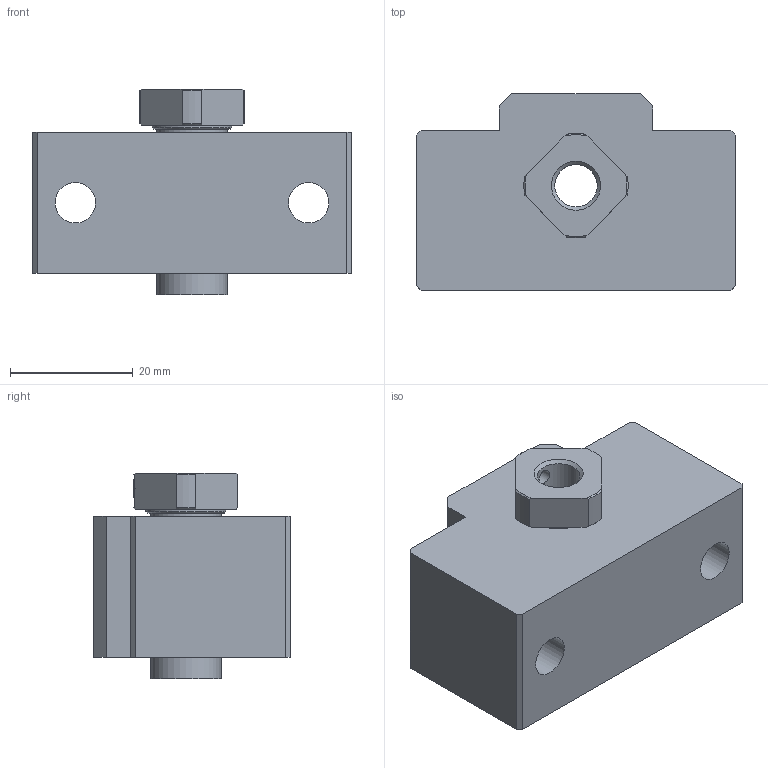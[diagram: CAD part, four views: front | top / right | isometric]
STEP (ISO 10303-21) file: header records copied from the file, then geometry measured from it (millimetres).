
FILE_DESCRIPTION(/* description */ ('STEP AP214'),/* implementation_level */ '2;1');
FILE_NAME(/* name */ 'EK8______CAD_NO_Yes',/* time_stamp */ '2026-09-17T12:54:46+02:00',/* author */ ('License CC BY-ND 4.0'),/* organization */ ('CADENAS'),/* preprocessor_version */ 'ST-DEVELOPER v20',/* originating_system */ 'PARTsolutions',/* authorisation */ ' ');
FILE_SCHEMA (('AUTOMOTIVE_DESIGN {1 0 10303 214 3 1 1}'));
Length unit declared in the file: millimetre
Products named in the file (4): EK8______CAD_NO_Yes; EK 8; EK 8collar; RN 8
Assembly tree (4 placements, depth 2):
  EK8______CAD_NO_Yes
    EK 8
    EK 8collar  x2
    RN 8
Bounding box: 52 x 32 x 33.5 mm (x, y, z)
Volume: 31169.3 mm3; surface area: 10541.9 mm2
Topology: 4 solids, 4 shells, 75 faces, 169 edges, 112 vertices
Faces by surface type: plane 42, cylinder 21, cone 12
Full cylindrical faces by diameter (mm): 2.459 x1, 3 x1, 6.6 x2, 6.917 x1, 8 x3, 11 x2, 11.5 x4, 13 x1, 19 x1, 19.1 x1
Entity records: 2057 total; most frequent: CARTESIAN_POINT 392, DIRECTION 324, ORIENTED_EDGE 284, EDGE_CURVE 142, AXIS2_PLACEMENT_3D 124, EDGE_LOOP 110, FACE_BOUND 110, VERTEX_POINT 106
